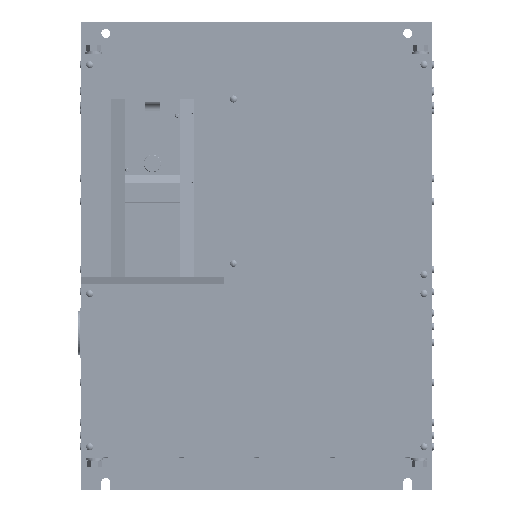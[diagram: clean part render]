
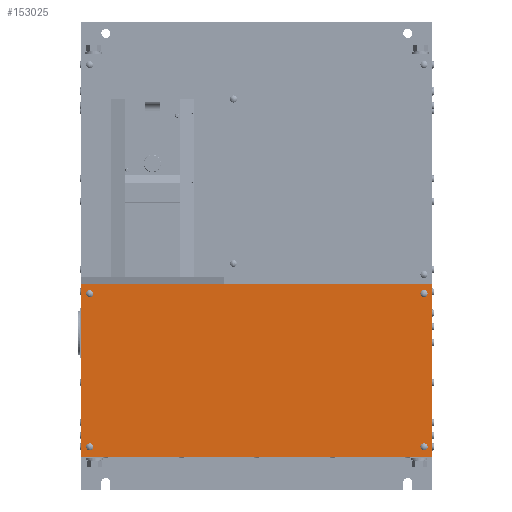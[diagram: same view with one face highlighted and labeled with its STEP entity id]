
A CAD part, top view. The second image highlights one B-rep face of the part: STEP entity #153025.
In plain terms, the highlighted planar face has unit normal (0, 0, 1).
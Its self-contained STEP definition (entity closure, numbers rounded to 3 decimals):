
#152734=DIRECTION('',(0.,-1.,0.));
#152735=VECTOR('',#152734,229.6);
#152736=CARTESIAN_POINT('',(-232.5,0.,1.6));
#152737=LINE('',#152736,#152735);
#152746=DIRECTION('',(1.,0.,0.));
#152747=VECTOR('',#152746,465.);
#152748=CARTESIAN_POINT('',(-232.5,-229.6,1.6));
#152749=LINE('',#152748,#152747);
#152750=DIRECTION('',(-1.,0.,0.));
#152751=VECTOR('',#152750,465.);
#152752=CARTESIAN_POINT('',(232.5,0.,1.6));
#152753=LINE('',#152752,#152751);
#152754=CARTESIAN_POINT('',(-221.5,-12.6,1.6));
#152755=DIRECTION('',(0.,0.,1.));
#152756=DIRECTION('',(1.,0.,0.));
#152757=AXIS2_PLACEMENT_3D('',#152754,#152755,#152756);
#152759=CARTESIAN_POINT('',(-221.5,-12.6,1.6));
#152760=DIRECTION('',(0.,0.,1.));
#152761=DIRECTION('',(-1.,0.,0.));
#152762=AXIS2_PLACEMENT_3D('',#152759,#152760,#152761);
#152764=CARTESIAN_POINT('',(221.5,-12.6,1.6));
#152765=DIRECTION('',(0.,0.,1.));
#152766=DIRECTION('',(1.,0.,0.));
#152767=AXIS2_PLACEMENT_3D('',#152764,#152765,#152766);
#152769=CARTESIAN_POINT('',(221.5,-12.6,1.6));
#152770=DIRECTION('',(0.,0.,1.));
#152771=DIRECTION('',(-1.,0.,0.));
#152772=AXIS2_PLACEMENT_3D('',#152769,#152770,#152771);
#152774=CARTESIAN_POINT('',(221.5,-215.6,1.6));
#152775=DIRECTION('',(0.,0.,1.));
#152776=DIRECTION('',(1.,0.,0.));
#152777=AXIS2_PLACEMENT_3D('',#152774,#152775,#152776);
#152779=CARTESIAN_POINT('',(221.5,-215.6,1.6));
#152780=DIRECTION('',(0.,0.,1.));
#152781=DIRECTION('',(-1.,0.,0.));
#152782=AXIS2_PLACEMENT_3D('',#152779,#152780,#152781);
#152784=CARTESIAN_POINT('',(-221.5,-215.6,1.6));
#152785=DIRECTION('',(0.,0.,1.));
#152786=DIRECTION('',(1.,0.,0.));
#152787=AXIS2_PLACEMENT_3D('',#152784,#152785,#152786);
#152789=CARTESIAN_POINT('',(-221.5,-215.6,1.6));
#152790=DIRECTION('',(0.,0.,1.));
#152791=DIRECTION('',(-1.,0.,0.));
#152792=AXIS2_PLACEMENT_3D('',#152789,#152790,#152791);
#152798=DIRECTION('',(0.,1.,0.));
#152799=VECTOR('',#152798,229.6);
#152800=CARTESIAN_POINT('',(232.5,-229.6,1.6));
#152801=LINE('',#152800,#152799);
#152858=CARTESIAN_POINT('',(-232.5,-229.6,1.6));
#152859=CARTESIAN_POINT('',(232.5,-229.6,1.6));
#152860=VERTEX_POINT('',#152858);
#152861=VERTEX_POINT('',#152859);
#152890=CARTESIAN_POINT('',(-218.5,-12.6,1.6));
#152891=CARTESIAN_POINT('',(-224.5,-12.6,1.6));
#152892=VERTEX_POINT('',#152890);
#152893=VERTEX_POINT('',#152891);
#152894=CARTESIAN_POINT('',(224.5,-12.6,1.6));
#152895=CARTESIAN_POINT('',(218.5,-12.6,1.6));
#152896=VERTEX_POINT('',#152894);
#152897=VERTEX_POINT('',#152895);
#152898=CARTESIAN_POINT('',(224.5,-215.6,1.6));
#152899=CARTESIAN_POINT('',(218.5,-215.6,1.6));
#152900=VERTEX_POINT('',#152898);
#152901=VERTEX_POINT('',#152899);
#152902=CARTESIAN_POINT('',(-218.5,-215.6,1.6));
#152903=CARTESIAN_POINT('',(-224.5,-215.6,1.6));
#152904=VERTEX_POINT('',#152902);
#152905=VERTEX_POINT('',#152903);
#152910=CARTESIAN_POINT('',(232.5,0.,1.6));
#152911=CARTESIAN_POINT('',(-232.5,0.,1.6));
#152912=VERTEX_POINT('',#152910);
#152913=VERTEX_POINT('',#152911);
#152987=CARTESIAN_POINT('',(0.,0.,1.6));
#152988=DIRECTION('',(0.,0.,1.));
#152989=DIRECTION('',(1.,0.,0.));
#152990=AXIS2_PLACEMENT_3D('',#152987,#152988,#152989);
#152991=PLANE('',#152990);
#152993=ORIENTED_EDGE('',*,*,#152992,.F.);
#152995=ORIENTED_EDGE('',*,*,#152994,.F.);
#152996=ORIENTED_EDGE('',*,*,#152974,.F.);
#152998=ORIENTED_EDGE('',*,*,#152997,.F.);
#152999=EDGE_LOOP('',(#152993,#152995,#152996,#152998));
#153000=FACE_OUTER_BOUND('',#152999,.F.);
#153002=ORIENTED_EDGE('',*,*,#153001,.T.);
#153004=ORIENTED_EDGE('',*,*,#153003,.T.);
#153005=EDGE_LOOP('',(#153002,#153004));
#153006=FACE_BOUND('',#153005,.F.);
#153008=ORIENTED_EDGE('',*,*,#153007,.T.);
#153010=ORIENTED_EDGE('',*,*,#153009,.T.);
#153011=EDGE_LOOP('',(#153008,#153010));
#153012=FACE_BOUND('',#153011,.F.);
#153014=ORIENTED_EDGE('',*,*,#153013,.T.);
#153016=ORIENTED_EDGE('',*,*,#153015,.T.);
#153017=EDGE_LOOP('',(#153014,#153016));
#153018=FACE_BOUND('',#153017,.F.);
#153020=ORIENTED_EDGE('',*,*,#153019,.T.);
#153022=ORIENTED_EDGE('',*,*,#153021,.T.);
#153023=EDGE_LOOP('',(#153020,#153022));
#153024=FACE_BOUND('',#153023,.F.);
#153025=ADVANCED_FACE('',(#153000,#153006,#153012,#153018,#153024),#152991,.T.);
#152758=CIRCLE('',#152757,3.);
#152763=CIRCLE('',#152762,3.);
#152768=CIRCLE('',#152767,3.);
#152773=CIRCLE('',#152772,3.);
#152778=CIRCLE('',#152777,3.);
#152783=CIRCLE('',#152782,3.);
#152788=CIRCLE('',#152787,3.);
#152793=CIRCLE('',#152792,3.);
#152974=EDGE_CURVE('',#152913,#152860,#152737,.T.);
#152992=EDGE_CURVE('',#152861,#152912,#152801,.T.);
#152994=EDGE_CURVE('',#152860,#152861,#152749,.T.);
#152997=EDGE_CURVE('',#152912,#152913,#152753,.T.);
#153001=EDGE_CURVE('',#152892,#152893,#152758,.T.);
#153003=EDGE_CURVE('',#152893,#152892,#152763,.T.);
#153007=EDGE_CURVE('',#152896,#152897,#152768,.T.);
#153009=EDGE_CURVE('',#152897,#152896,#152773,.T.);
#153013=EDGE_CURVE('',#152900,#152901,#152778,.T.);
#153015=EDGE_CURVE('',#152901,#152900,#152783,.T.);
#153019=EDGE_CURVE('',#152904,#152905,#152788,.T.);
#153021=EDGE_CURVE('',#152905,#152904,#152793,.T.);
